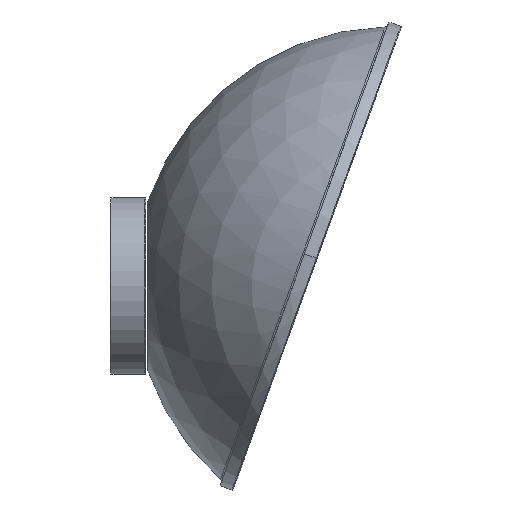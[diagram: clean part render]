
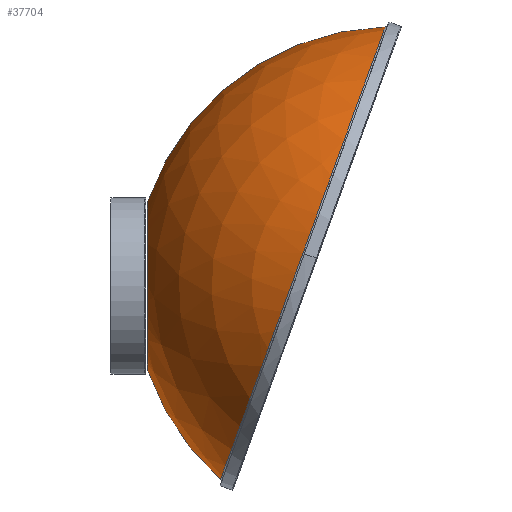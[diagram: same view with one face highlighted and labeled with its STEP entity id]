
A CAD part, left-side view. The second image highlights one B-rep face of the part: STEP entity #37704.
In plain terms, the highlighted spherical face has radius 155.768 mm.
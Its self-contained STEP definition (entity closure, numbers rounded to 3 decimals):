
#314 = CARTESIAN_POINT ( 'NONE',  ( 147.338, 0., -50.55 ) ) ;
#669 = DIRECTION ( 'NONE',  ( 1., 0., 0. ) ) ;
#1095 = DIRECTION ( 'NONE',  ( 0., 0., 1. ) ) ;
#1151 = CARTESIAN_POINT ( 'NONE',  ( 0., 0., 0. ) ) ;
#1648 = ORIENTED_EDGE ( 'NONE', *, *, #42673, .T. ) ;
#1881 = AXIS2_PLACEMENT_3D ( 'NONE', #4104, #32076, #669 ) ;
#2753 = CIRCLE ( 'NONE', #38661, 155.768 ) ;
#4104 = CARTESIAN_POINT ( 'NONE',  ( 0., 0., 0. ) ) ;
#4536 = CARTESIAN_POINT ( 'NONE',  ( 147.338, 0., 0. ) ) ;
#4846 = VERTEX_POINT ( 'NONE', #42505 ) ;
#5339 = CARTESIAN_POINT ( 'NONE',  ( 4.545, 155.702, 0. ) ) ;
#9214 = VERTEX_POINT ( 'NONE', #40440 ) ;
#9910 = DIRECTION ( 'NONE',  ( -1., 0., 0. ) ) ;
#12341 = EDGE_CURVE ( 'NONE', #18160, #37297, #19581, .T. ) ;
#14150 = CIRCLE ( 'NONE', #41199, 50.55 ) ;
#14868 = DIRECTION ( 'NONE',  ( 0.342, -0.94, 0. ) ) ;
#14913 = DIRECTION ( 'NONE',  ( 1., 0., 0. ) ) ;
#15157 = EDGE_CURVE ( 'NONE', #9214, #24535, #38504, .T. ) ;
#16272 = EDGE_LOOP ( 'NONE', ( #31266, #40282, #32584, #1648, #23269 ) ) ;
#17493 = CARTESIAN_POINT ( 'NONE',  ( 147.338, 0., 0. ) ) ;
#18127 = AXIS2_PLACEMENT_3D ( 'NONE', #4536, #39819, #1095 ) ;
#18160 = VERTEX_POINT ( 'NONE', #314 ) ;
#18340 = DIRECTION ( 'NONE',  ( 0., 0., 1. ) ) ;
#19581 = CIRCLE ( 'NONE', #18127, 50.55 ) ;
#21530 = FACE_OUTER_BOUND ( 'NONE', #16272, .T. ) ;
#23269 = ORIENTED_EDGE ( 'NONE', *, *, #12341, .T. ) ;
#23901 = DIRECTION ( 'NONE',  ( 0., 0., 1. ) ) ;
#24535 = VERTEX_POINT ( 'NONE', #5339 ) ;
#24985 = CARTESIAN_POINT ( 'NONE',  ( 0., 0., 0. ) ) ;
#30445 = AXIS2_PLACEMENT_3D ( 'NONE', #43046, #39598, #14868 ) ;
#31266 = ORIENTED_EDGE ( 'NONE', *, *, #36311, .F. ) ;
#32076 = DIRECTION ( 'NONE',  ( 0., 0., -1. ) ) ;
#32314 = DIRECTION ( 'NONE',  ( 1., 0., 0. ) ) ;
#32584 = ORIENTED_EDGE ( 'NONE', *, *, #39932, .F. ) ;
#36311 = EDGE_CURVE ( 'NONE', #9214, #37297, #2753, .T. ) ;
#37297 = VERTEX_POINT ( 'NONE', #39892 ) ;
#37704 = ADVANCED_FACE ( 'NONE', ( #21530 ), #41700, .T. ) ;
#38504 = CIRCLE ( 'NONE', #30445, 144.757 ) ;
#38661 = AXIS2_PLACEMENT_3D ( 'NONE', #1151, #38752, #14913 ) ;
#38752 = DIRECTION ( 'NONE',  ( 0., 0., 1. ) ) ;
#39598 = DIRECTION ( 'NONE',  ( 0.94, 0.342, 0. ) ) ;
#39819 = DIRECTION ( 'NONE',  ( -1., 0., 0. ) ) ;
#39892 = CARTESIAN_POINT ( 'NONE',  ( 147.338, -50.55, 0. ) ) ;
#39932 = EDGE_CURVE ( 'NONE', #4846, #24535, #40411, .T. ) ;
#40282 = ORIENTED_EDGE ( 'NONE', *, *, #15157, .T. ) ;
#40411 = CIRCLE ( 'NONE', #42629, 155.768 ) ;
#40440 = CARTESIAN_POINT ( 'NONE',  ( 103.565, -116.353, 0. ) ) ;
#41199 = AXIS2_PLACEMENT_3D ( 'NONE', #17493, #9910, #23901 ) ;
#41700 = SPHERICAL_SURFACE ( 'NONE', #1881, 155.768 ) ;
#42505 = CARTESIAN_POINT ( 'NONE',  ( 147.338, 50.55, 0. ) ) ;
#42629 = AXIS2_PLACEMENT_3D ( 'NONE', #24985, #18340, #32314 ) ;
#42673 = EDGE_CURVE ( 'NONE', #4846, #18160, #14150, .T. ) ;
#43046 = CARTESIAN_POINT ( 'NONE',  ( 54.055, 19.675, 0. ) ) ;
